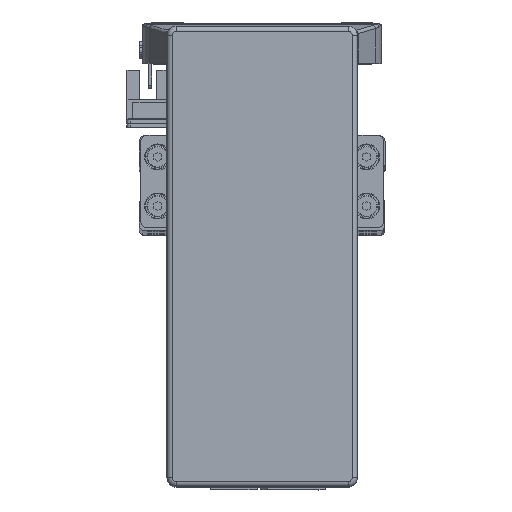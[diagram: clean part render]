
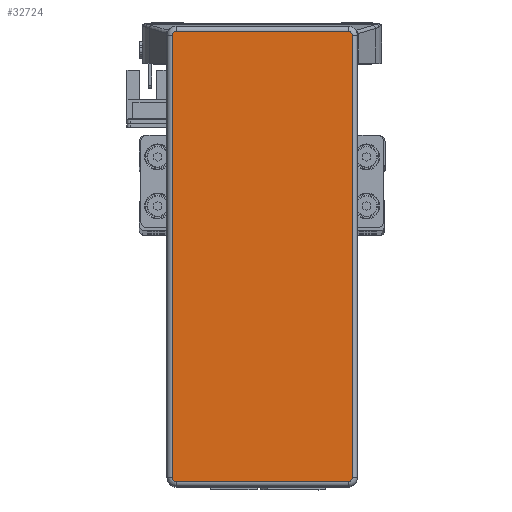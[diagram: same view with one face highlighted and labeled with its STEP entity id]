
A CAD part, top view. The second image highlights one B-rep face of the part: STEP entity #32724.
In plain terms, the highlighted planar face has unit normal (0, 0, 1) as drawn and (0, 0, -1) by its records, which use the part's own axes.
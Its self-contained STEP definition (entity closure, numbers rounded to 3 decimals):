
#6896 = EDGE_CURVE ( 'NONE', #19519, #19489, #16419, .T. ) ;
#6910 = EDGE_CURVE ( 'NONE', #19511, #19495, #16581, .T. ) ;
#6923 = EDGE_CURVE ( 'NONE', #19500, #19476, #16587, .T. ) ;
#6971 = EDGE_CURVE ( 'NONE', #19489, #19511, #16630, .T. ) ;
#7007 = EDGE_CURVE ( 'NONE', #19518, #19500, #16579, .T. ) ;
#7127 = EDGE_CURVE ( 'NONE', #19495, #19518, #16763, .T. ) ;
#7136 = EDGE_CURVE ( 'NONE', #19476, #19474, #16707, .T. ) ;
#7189 = EDGE_CURVE ( 'NONE', #19474, #19519, #16813, .T. ) ;
#8420 = AXIS2_PLACEMENT_3D ( 'NONE', #45981, #45994, #45985 ) ;
#8444 = AXIS2_PLACEMENT_3D ( 'NONE', #45948, #45943, #45954 ) ;
#8454 = AXIS2_PLACEMENT_3D ( 'NONE', #45768, #45788, #45773 ) ;
#8458 = AXIS2_PLACEMENT_3D ( 'NONE', #45808, #45813, #45799 ) ;
#10230 = PLANE ( 'NONE',  #32057 ) ;
#10246 = DIRECTION ( 'NONE',  ( 1., 0., 0. ) ) ;
#10268 = DIRECTION ( 'NONE',  ( 0., 0., 1. ) ) ;
#10269 = CARTESIAN_POINT ( 'NONE',  ( 71.995, -27.995, -32.2 ) ) ;
#12989 = CARTESIAN_POINT ( 'NONE',  ( -71.995, 29.295, -32.2 ) ) ;
#13002 = CARTESIAN_POINT ( 'NONE',  ( -73.295, 27.995, -32.2 ) ) ;
#13011 = CARTESIAN_POINT ( 'NONE',  ( 71.995, 29.295, -32.2 ) ) ;
#13028 = CARTESIAN_POINT ( 'NONE',  ( 73.295, -27.995, -32.2 ) ) ;
#13043 = CARTESIAN_POINT ( 'NONE',  ( -71.995, -29.295, -32.2 ) ) ;
#13055 = CARTESIAN_POINT ( 'NONE',  ( -73.295, -27.995, -32.2 ) ) ;
#13063 = CARTESIAN_POINT ( 'NONE',  ( 71.995, -29.295, -32.2 ) ) ;
#13081 = CARTESIAN_POINT ( 'NONE',  ( 73.295, 27.995, -32.2 ) ) ;
#15088 = ORIENTED_EDGE ( 'NONE', *, *, #6971, .T. ) ;
#15100 = ORIENTED_EDGE ( 'NONE', *, *, #6896, .T. ) ;
#15102 = ORIENTED_EDGE ( 'NONE', *, *, #7007, .T. ) ;
#15104 = ORIENTED_EDGE ( 'NONE', *, *, #7189, .T. ) ;
#15113 = ORIENTED_EDGE ( 'NONE', *, *, #7127, .T. ) ;
#15115 = ORIENTED_EDGE ( 'NONE', *, *, #6910, .T. ) ;
#15137 = ORIENTED_EDGE ( 'NONE', *, *, #7136, .T. ) ;
#15148 = ORIENTED_EDGE ( 'NONE', *, *, #6923, .T. ) ;
#16419 = LINE ( 'NONE', #45734, #16585 ) ;
#16545 = VECTOR ( 'NONE', #45820, 1000. ) ;
#16579 = LINE ( 'NONE', #45798, #16545 ) ;
#16581 = LINE ( 'NONE', #45717, #16620 ) ;
#16585 = VECTOR ( 'NONE', #45726, 1000. ) ;
#16587 = CIRCLE ( 'NONE', #8454, 1.3 ) ;
#16620 = VECTOR ( 'NONE', #45719, 1000. ) ;
#16630 = CIRCLE ( 'NONE', #8458, 1.3 ) ;
#16670 = VECTOR ( 'NONE', #45956, 1000. ) ;
#16707 = LINE ( 'NONE', #45937, #16670 ) ;
#16763 = CIRCLE ( 'NONE', #8444, 1.3 ) ;
#16813 = CIRCLE ( 'NONE', #8420, 1.3 ) ;
#19474 = VERTEX_POINT ( 'NONE', #13011 ) ;
#19476 = VERTEX_POINT ( 'NONE', #12989 ) ;
#19489 = VERTEX_POINT ( 'NONE', #13028 ) ;
#19495 = VERTEX_POINT ( 'NONE', #13043 ) ;
#19500 = VERTEX_POINT ( 'NONE', #13002 ) ;
#19511 = VERTEX_POINT ( 'NONE', #13063 ) ;
#19518 = VERTEX_POINT ( 'NONE', #13055 ) ;
#19519 = VERTEX_POINT ( 'NONE', #13081 ) ;
#20834 = EDGE_LOOP ( 'NONE', ( #15100, #15088, #15115, #15113, #15102, #15148, #15137, #15104 ) ) ;
#32057 = AXIS2_PLACEMENT_3D ( 'NONE', #10269, #10268, #10246 ) ;
#32724 = ADVANCED_FACE ( 'NONE', ( #36407 ), #10230, .F. ) ;
#36407 = FACE_OUTER_BOUND ( 'NONE', #20834, .T. ) ;
#45717 = CARTESIAN_POINT ( 'NONE',  ( 71.995, -29.295, -32.2 ) ) ;
#45719 = DIRECTION ( 'NONE',  ( -1., 0., 0. ) ) ;
#45726 = DIRECTION ( 'NONE',  ( 0., -1., 0. ) ) ;
#45734 = CARTESIAN_POINT ( 'NONE',  ( 73.295, -27.995, -32.2 ) ) ;
#45768 = CARTESIAN_POINT ( 'NONE',  ( -71.995, 27.995, -32.2 ) ) ;
#45773 = DIRECTION ( 'NONE',  ( 1., 0., 0. ) ) ;
#45788 = DIRECTION ( 'NONE',  ( 0., 0., -1. ) ) ;
#45798 = CARTESIAN_POINT ( 'NONE',  ( -73.295, -27.995, -32.2 ) ) ;
#45799 = DIRECTION ( 'NONE',  ( 1., 0., 0. ) ) ;
#45808 = CARTESIAN_POINT ( 'NONE',  ( 71.995, -27.995, -32.2 ) ) ;
#45813 = DIRECTION ( 'NONE',  ( 0., 0., -1. ) ) ;
#45820 = DIRECTION ( 'NONE',  ( 0., 1., 0. ) ) ;
#45937 = CARTESIAN_POINT ( 'NONE',  ( 71.995, 29.295, -32.2 ) ) ;
#45943 = DIRECTION ( 'NONE',  ( 0., 0., -1. ) ) ;
#45948 = CARTESIAN_POINT ( 'NONE',  ( -71.995, -27.995, -32.2 ) ) ;
#45954 = DIRECTION ( 'NONE',  ( 1., 0., 0. ) ) ;
#45956 = DIRECTION ( 'NONE',  ( 1., 0., 0. ) ) ;
#45981 = CARTESIAN_POINT ( 'NONE',  ( 71.995, 27.995, -32.2 ) ) ;
#45985 = DIRECTION ( 'NONE',  ( 1., 0., 0. ) ) ;
#45994 = DIRECTION ( 'NONE',  ( 0., 0., -1. ) ) ;
